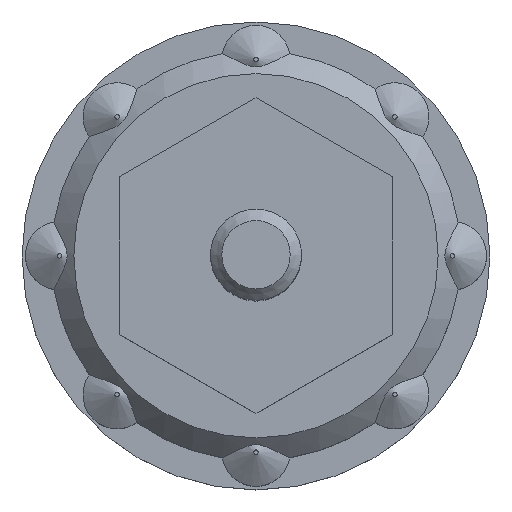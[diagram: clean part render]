
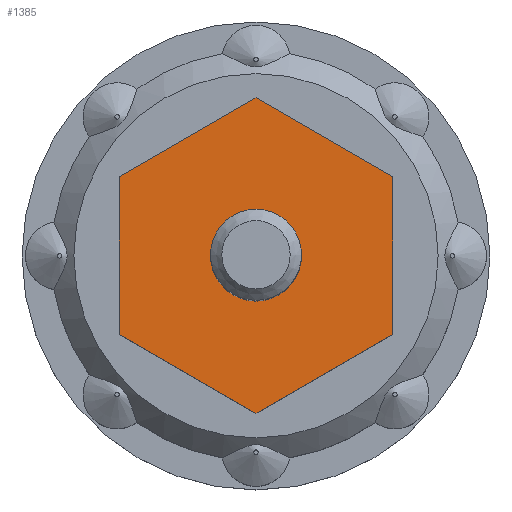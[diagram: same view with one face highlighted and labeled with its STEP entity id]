
A CAD part, top view. The second image highlights one B-rep face of the part: STEP entity #1385.
In plain terms, the highlighted planar face has unit normal (0, 0, 1).
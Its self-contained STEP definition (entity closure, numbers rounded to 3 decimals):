
#179=CARTESIAN_POINT('',(0.,-13.856,23.));
#180=VERTEX_POINT('',#179);
#181=CARTESIAN_POINT('',(-12.,-6.928,23.));
#182=VERTEX_POINT('',#181);
#183=CARTESIAN_POINT('',(0.,-13.856,23.));
#184=DIRECTION('',(-0.866,0.5,0.));
#185=VECTOR('',#184,13.856);
#186=LINE('',#183,#185);
#187=EDGE_CURVE('',#180,#182,#186,.T.);
#210=CARTESIAN_POINT('',(12.,-6.928,23.));
#211=VERTEX_POINT('',#210);
#212=CARTESIAN_POINT('',(12.,-6.928,23.));
#213=DIRECTION('',(-0.866,-0.5,0.));
#214=VECTOR('',#213,13.856);
#215=LINE('',#212,#214);
#216=EDGE_CURVE('',#211,#180,#215,.T.);
#234=CARTESIAN_POINT('',(12.,6.928,23.));
#235=VERTEX_POINT('',#234);
#236=CARTESIAN_POINT('',(12.,6.928,23.));
#237=DIRECTION('',(0.,-1.,0.));
#238=VECTOR('',#237,13.856);
#239=LINE('',#236,#238);
#240=EDGE_CURVE('',#235,#211,#239,.T.);
#258=CARTESIAN_POINT('',(0.,13.856,23.));
#259=VERTEX_POINT('',#258);
#260=CARTESIAN_POINT('',(0.,13.856,23.));
#261=DIRECTION('',(0.866,-0.5,0.));
#262=VECTOR('',#261,13.856);
#263=LINE('',#260,#262);
#264=EDGE_CURVE('',#259,#235,#263,.T.);
#282=CARTESIAN_POINT('',(-12.,6.928,23.));
#283=VERTEX_POINT('',#282);
#284=CARTESIAN_POINT('',(-12.,6.928,23.));
#285=DIRECTION('',(0.866,0.5,0.));
#286=VECTOR('',#285,13.856);
#287=LINE('',#284,#286);
#288=EDGE_CURVE('',#283,#259,#287,.T.);
#306=CARTESIAN_POINT('',(-12.,-6.928,23.));
#307=DIRECTION('',(0.,1.,0.));
#308=VECTOR('',#307,13.856);
#309=LINE('',#306,#308);
#310=EDGE_CURVE('',#182,#283,#309,.T.);
#1361=CARTESIAN_POINT('',(1.856,0.,23.));
#1362=DIRECTION('',(1.,0.,0.));
#1363=DIRECTION('',(0.,-0.,-1.));
#1364=AXIS2_PLACEMENT_3D('',#1361,#1363,#1362);
#1365=PLANE('',#1364);
#1366=ORIENTED_EDGE('',*,*,#216,.T.);
#1367=ORIENTED_EDGE('',*,*,#187,.T.);
#1368=ORIENTED_EDGE('',*,*,#310,.T.);
#1369=ORIENTED_EDGE('',*,*,#288,.T.);
#1370=ORIENTED_EDGE('',*,*,#264,.T.);
#1371=ORIENTED_EDGE('',*,*,#240,.T.);
#1372=EDGE_LOOP('',(#1366,#1367,#1368,#1369,#1370,#1371));
#1373=FACE_OUTER_BOUND('',#1372,.F.);
#1374=CARTESIAN_POINT('',(4.,0.,23.));
#1375=VERTEX_POINT('',#1374);
#1376=CARTESIAN_POINT('',(0.,0.,23.));
#1377=DIRECTION('',(1.,0.,0.));
#1378=DIRECTION('',(0.,0.,1.));
#1379=AXIS2_PLACEMENT_3D('',#1376,#1378,#1377);
#1380=CIRCLE('',#1379,4.);
#1381=EDGE_CURVE('',#1375,#1375,#1380,.T.);
#1382=ORIENTED_EDGE('E170',*,*,#1381,.T.);
#1383=EDGE_LOOP('',(#1382));
#1384=FACE_BOUND('',#1383,.F.);
#1385=ADVANCED_FACE('F15',(#1373,#1384),#1365,.F.);
